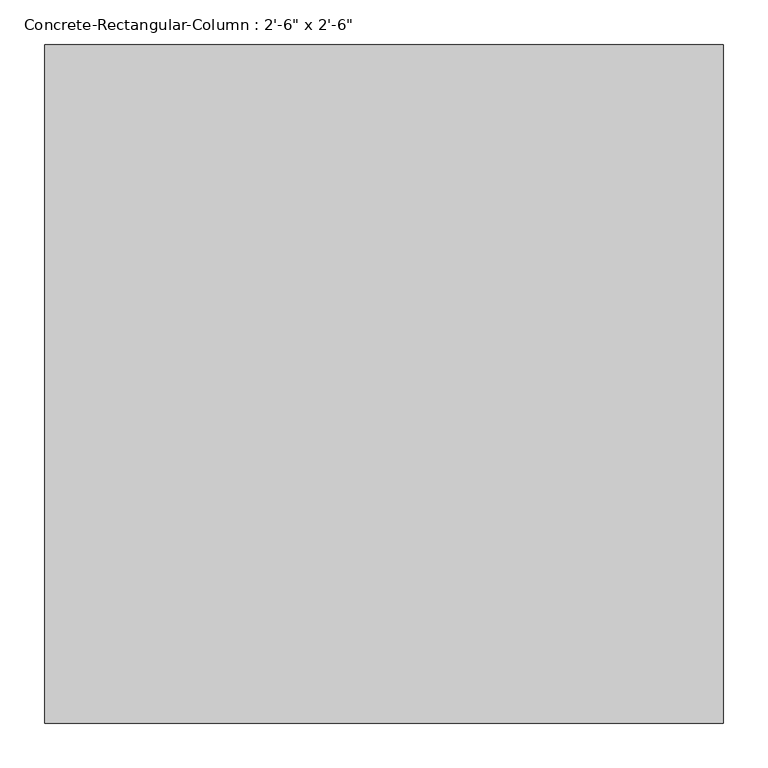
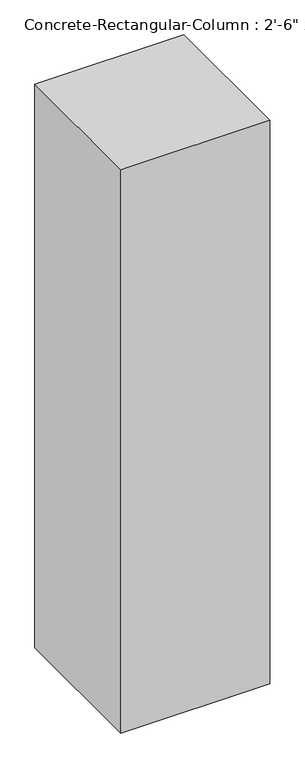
"""IFC4 building model written with IfcOpenShell, lengths in millimetres: column geometry."""

from ifc_helpers import new_model, si_unit, frame, origin, place, context, project, spatial, polyline, outline, extrude, source, transform, mapped, element, save


def column_99cc3399(model_context):
    return source(origin(), model_context, "Body", "SweptSolid", [
        extrude(outline(polyline([(381.0, 381.0), (381.0, -381.0), (-381.0, -381.0), (-381.0, 381.0), (381.0, 381.0)])), frame((0.0, 0.0, -3048.0), z_axis=(0.0, 0.0, 1.0), x_axis=(1.0, 0.0, 0.0)), (0.0, 0.0, 1.0), 3048.0),
    ])


if __name__ == "__main__":
    model = new_model("IFC4")
    model_context = context("Model", 3, world=origin())
    ifc_project = project(units=[si_unit("LENGTHUNIT", "METRE", prefix="MILLI")], contexts=[model_context])
    site = spatial("IfcSite", under=ifc_project)
    building = spatial("IfcBuilding", under=site)
    placement = place(None, origin())
    column_shape = column_99cc3399(model_context)
    element("IfcColumn", 1, ObjectType="Concrete-Rectangular-Column : 2'-6\" x 2'-6\"", at=placement, inside=building, context=model_context, shape_type="MappedRepresentation", body=[
        mapped(column_shape, transform((0.0, 0.0, 0.0), x_axis=(1.0, 0.0, 0.0), y_axis=(0.0, 1.0, 0.0), z_axis=(0.0, 0.0, 1.0))),
    ])
    save(model, "model.ifc")
